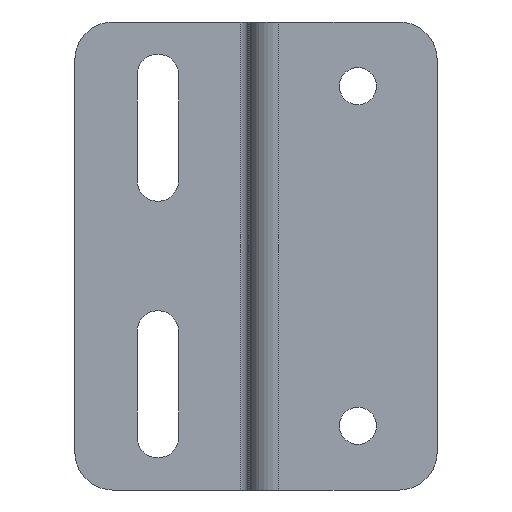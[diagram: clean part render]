
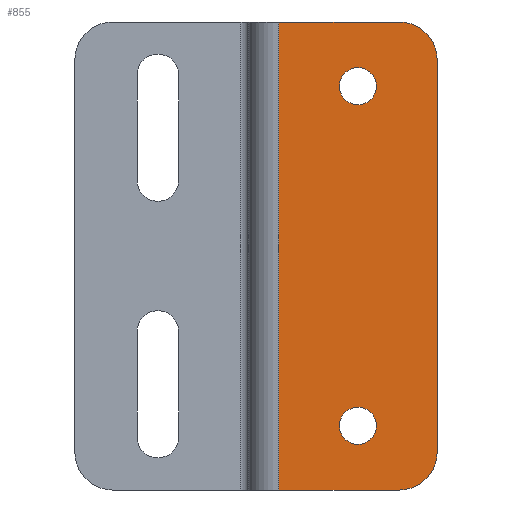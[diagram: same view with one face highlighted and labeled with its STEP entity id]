
A CAD part, left-side view. The second image highlights one B-rep face of the part: STEP entity #855.
In plain terms, the highlighted planar face has unit normal (-1, 0, 0).
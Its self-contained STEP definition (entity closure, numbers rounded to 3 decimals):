
#135=CARTESIAN_POINT('',(0.,1.464,29.536));
#136=VERTEX_POINT('',#135);
#152=CARTESIAN_POINT('',(0.0,5.,31.0));
#153=VERTEX_POINT('',#152);
#160=CARTESIAN_POINT('',(0.,5.0,26.0));
#161=DIRECTION('',(1.,0.,0.));
#162=DIRECTION('',(0.,-0.707,0.707));
#163=AXIS2_PLACEMENT_3D('',#160,#161,#162);
#164=CIRCLE('',#163,5.);
#165=EDGE_CURVE('',#153,#136,#164,.T.);
#175=CARTESIAN_POINT('',(0.,1.464,-29.536));
#176=VERTEX_POINT('',#175);
#185=CARTESIAN_POINT('',(0.0,5.,-31.0));
#186=VERTEX_POINT('',#185);
#187=CARTESIAN_POINT('',(0.,5.0,-26.0));
#188=DIRECTION('',(1.,0.,0.));
#189=DIRECTION('',(0.,-0.707,-0.707));
#190=AXIS2_PLACEMENT_3D('',#187,#188,#189);
#191=CIRCLE('',#190,5.);
#192=EDGE_CURVE('',#176,#186,#191,.T.);
#240=CARTESIAN_POINT('',(0.0,10.5,24.958));
#241=VERTEX_POINT('',#240);
#257=CARTESIAN_POINT('',(0.0,10.5,20.041));
#258=VERTEX_POINT('',#257);
#265=CARTESIAN_POINT('',(0.0,10.5,22.5));
#266=DIRECTION('',(1.0,0.0,0.0));
#267=DIRECTION('',(0.0,0.0,1.0));
#268=AXIS2_PLACEMENT_3D('',#265,#266,#267);
#269=CIRCLE('',#268,2.459);
#270=EDGE_CURVE('',#241,#258,#269,.T.);
#303=CARTESIAN_POINT('',(0.0,10.5,-20.041));
#304=VERTEX_POINT('',#303);
#320=CARTESIAN_POINT('',(0.0,10.5,-24.959));
#321=VERTEX_POINT('',#320);
#328=CARTESIAN_POINT('',(0.0,10.5,-22.5));
#329=DIRECTION('',(1.0,0.0,0.0));
#330=DIRECTION('',(0.0,0.0,1.0));
#331=AXIS2_PLACEMENT_3D('',#328,#329,#330);
#332=CIRCLE('',#331,2.459);
#333=EDGE_CURVE('',#304,#321,#332,.T.);
#365=CARTESIAN_POINT('',(0.0,10.5,-22.5));
#366=DIRECTION('',(1.0,0.0,0.0));
#367=DIRECTION('',(0.0,0.0,1.0));
#368=AXIS2_PLACEMENT_3D('',#365,#366,#367);
#369=CIRCLE('',#368,2.459);
#370=EDGE_CURVE('',#321,#304,#369,.T.);
#410=CARTESIAN_POINT('',(0.0,10.5,22.5));
#411=DIRECTION('',(1.0,0.0,0.0));
#412=DIRECTION('',(0.0,0.0,1.0));
#413=AXIS2_PLACEMENT_3D('',#410,#411,#412);
#414=CIRCLE('',#413,2.459);
#415=EDGE_CURVE('',#258,#241,#414,.T.);
#699=CARTESIAN_POINT('',(0.0,0.,-26.0));
#700=VERTEX_POINT('',#699);
#707=CARTESIAN_POINT('',(0.,5.0,-26.0));
#708=DIRECTION('',(1.,0.,0.));
#709=DIRECTION('',(0.,-0.707,-0.707));
#710=AXIS2_PLACEMENT_3D('',#707,#708,#709);
#711=CIRCLE('',#710,5.);
#712=EDGE_CURVE('',#700,#176,#711,.T.);
#723=CARTESIAN_POINT('',(0.0,21.0,-31.0));
#724=VERTEX_POINT('',#723);
#725=CARTESIAN_POINT('',(0.0,21.0,-31.0));
#726=DIRECTION('',(0.0,-1.0,0.0));
#727=VECTOR('',#726,16.0);
#728=LINE('',#725,#727);
#729=EDGE_CURVE('',#724,#186,#728,.T.);
#807=CARTESIAN_POINT('',(0.0,0.,0.0));
#808=DIRECTION('',(-1.0,0.0,0.0));
#809=DIRECTION('',(0.0,0.0,1.0));
#810=AXIS2_PLACEMENT_3D('',#807,#808,#809);
#811=PLANE('',#810);
#812=ORIENTED_EDGE('',*,*,#712,.F.);
#813=CARTESIAN_POINT('',(0.0,0.,26.0));
#814=VERTEX_POINT('',#813);
#815=CARTESIAN_POINT('',(0.0,0.,-26.0));
#816=DIRECTION('',(0.0,0.0,1.0));
#817=VECTOR('',#816,52.0);
#818=LINE('',#815,#817);
#819=EDGE_CURVE('',#700,#814,#818,.T.);
#820=ORIENTED_EDGE('',*,*,#819,.T.);
#821=CARTESIAN_POINT('',(0.,5.0,26.0));
#822=DIRECTION('',(1.,0.,0.));
#823=DIRECTION('',(0.,-0.707,0.707));
#824=AXIS2_PLACEMENT_3D('',#821,#822,#823);
#825=CIRCLE('',#824,5.);
#826=EDGE_CURVE('',#136,#814,#825,.T.);
#827=ORIENTED_EDGE('',*,*,#826,.F.);
#828=ORIENTED_EDGE('',*,*,#165,.F.);
#829=CARTESIAN_POINT('',(0.0,21.0,31.0));
#830=VERTEX_POINT('',#829);
#831=CARTESIAN_POINT('',(0.0,5.,31.0));
#832=DIRECTION('',(0.0,1.0,0.0));
#833=VECTOR('',#832,16.0);
#834=LINE('',#831,#833);
#835=EDGE_CURVE('',#153,#830,#834,.T.);
#836=ORIENTED_EDGE('',*,*,#835,.T.);
#837=CARTESIAN_POINT('',(0.0,21.0,31.0));
#838=DIRECTION('',(0.0,0.0,-1.0));
#839=VECTOR('',#838,62.0);
#840=LINE('',#837,#839);
#841=EDGE_CURVE('',#830,#724,#840,.T.);
#842=ORIENTED_EDGE('',*,*,#841,.T.);
#843=ORIENTED_EDGE('',*,*,#729,.T.);
#844=ORIENTED_EDGE('',*,*,#192,.F.);
#845=EDGE_LOOP('',(#812,#820,#827,#828,#836,#842,#843,#844));
#846=FACE_OUTER_BOUND('',#845,.T.);
#847=ORIENTED_EDGE('',*,*,#333,.T.);
#848=ORIENTED_EDGE('',*,*,#370,.T.);
#849=EDGE_LOOP('',(#847,#848));
#850=FACE_BOUND('',#849,.T.);
#851=ORIENTED_EDGE('',*,*,#270,.T.);
#852=ORIENTED_EDGE('',*,*,#415,.T.);
#853=EDGE_LOOP('',(#851,#852));
#854=FACE_BOUND('',#853,.T.);
#855=ADVANCED_FACE('',(#846,#850,#854),#811,.T.);
